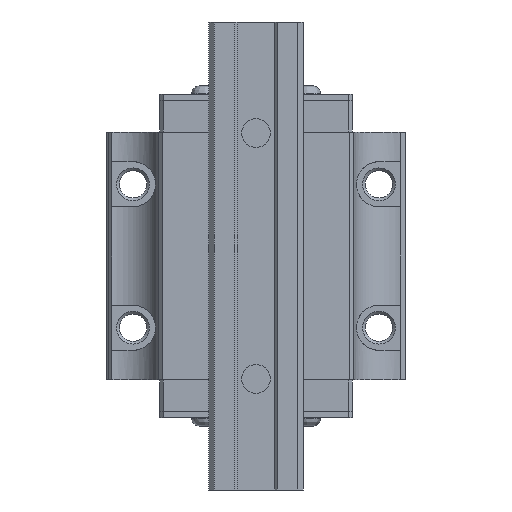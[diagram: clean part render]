
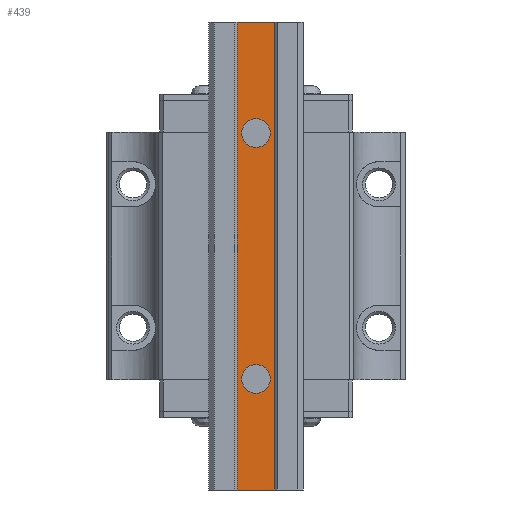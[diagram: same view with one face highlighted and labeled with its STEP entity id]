
A CAD part, front view. The second image highlights one B-rep face of the part: STEP entity #439.
In plain terms, the highlighted planar face has unit normal (0, -1, 0).
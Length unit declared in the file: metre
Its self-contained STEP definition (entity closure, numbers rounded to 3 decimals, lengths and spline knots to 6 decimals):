
#439 = ADVANCED_FACE( '', ( #1074, #1075, #1076 ), #1077, .F. );
#1074 = FACE_BOUND( '', #1994, .T. );
#1075 = FACE_BOUND( '', #1995, .T. );
#1076 = FACE_OUTER_BOUND( '', #1996, .T. );
#1077 = PLANE( '', #1997 );
#1994 = EDGE_LOOP( '', ( #3388 ) );
#1995 = EDGE_LOOP( '', ( #3389 ) );
#1996 = EDGE_LOOP( '', ( #3390, #3391, #3392, #3393 ) );
#1997 = AXIS2_PLACEMENT_3D( '', #3394, #3395, #3396 );
#3388 = ORIENTED_EDGE( '', *, *, #5465, .F. );
#3389 = ORIENTED_EDGE( '', *, *, #5466, .F. );
#3390 = ORIENTED_EDGE( '', *, *, #5467, .T. );
#3391 = ORIENTED_EDGE( '', *, *, #5468, .F. );
#3392 = ORIENTED_EDGE( '', *, *, #5469, .F. );
#3393 = ORIENTED_EDGE( '', *, *, #5470, .T. );
#3394 = CARTESIAN_POINT( '', ( 0.0046, 0.0006, -0.0942 ) );
#3395 = DIRECTION( '', ( 0., 1., 0. ) );
#3396 = DIRECTION( '', ( 0., 0., -1. ) );
#5465 = EDGE_CURVE( '', #6658, #6658, #6659, .T. );
#5466 = EDGE_CURVE( '', #6660, #6660, #6661, .T. );
#5467 = EDGE_CURVE( '', #6662, #6663, #6664, .T. );
#5468 = EDGE_CURVE( '', #6665, #6663, #6666, .T. );
#5469 = EDGE_CURVE( '', #6667, #6665, #6668, .T. );
#5470 = EDGE_CURVE( '', #6667, #6662, #6669, .T. );
#6658 = VERTEX_POINT( '', #8410 );
#6659 = CIRCLE( '', #8411, 0.0035 );
#6660 = VERTEX_POINT( '', #8412 );
#6661 = CIRCLE( '', #8413, 0.0035 );
#6662 = VERTEX_POINT( '', #8414 );
#6663 = VERTEX_POINT( '', #8415 );
#6664 = LINE( '', #8416, #8417 );
#6665 = VERTEX_POINT( '', #8418 );
#6666 = LINE( '', #8419, #8420 );
#6667 = VERTEX_POINT( '', #8421 );
#6668 = LINE( '', #8422, #8423 );
#6669 = LINE( '', #8424, #8425 );
#8410 = CARTESIAN_POINT( '', ( 0.0035, 0.0006, -0.0871 ) );
#8411 = AXIS2_PLACEMENT_3D( '', #9824, #9825, #9826 );
#8412 = CARTESIAN_POINT( '', ( 0.0035, 0.0006, -0.0271 ) );
#8413 = AXIS2_PLACEMENT_3D( '', #9827, #9828, #9829 );
#8414 = CARTESIAN_POINT( '', ( 0.0046, 0.0006, 0. ) );
#8415 = CARTESIAN_POINT( '', ( -0.0046, 0.0006, 0. ) );
#8416 = CARTESIAN_POINT( '', ( 0.0046, 0.0006, 0. ) );
#8417 = VECTOR( '', #9830, 1. );
#8418 = CARTESIAN_POINT( '', ( -0.0046, 0.0006, -0.1142 ) );
#8419 = CARTESIAN_POINT( '', ( -0.0046, 0.0006, -0.0942 ) );
#8420 = VECTOR( '', #9831, 1. );
#8421 = CARTESIAN_POINT( '', ( 0.0046, 0.0006, -0.1142 ) );
#8422 = CARTESIAN_POINT( '', ( 0.0046, 0.0006, -0.1142 ) );
#8423 = VECTOR( '', #9832, 1. );
#8424 = CARTESIAN_POINT( '', ( 0.0046, 0.0006, -0.0942 ) );
#8425 = VECTOR( '', #9833, 1. );
#9824 = CARTESIAN_POINT( '', ( 0., 0.0006, -0.0871 ) );
#9825 = DIRECTION( '', ( 0., -1., 0. ) );
#9826 = DIRECTION( '', ( 1., 0., 0. ) );
#9827 = CARTESIAN_POINT( '', ( 0., 0.0006, -0.0271 ) );
#9828 = DIRECTION( '', ( 0., -1., 0. ) );
#9829 = DIRECTION( '', ( 1., 0., 0. ) );
#9830 = DIRECTION( '', ( -1., 0., 0. ) );
#9831 = DIRECTION( '', ( 0., 0., 1. ) );
#9832 = DIRECTION( '', ( -1., 0., 0. ) );
#9833 = DIRECTION( '', ( 0., 0., 1. ) );
